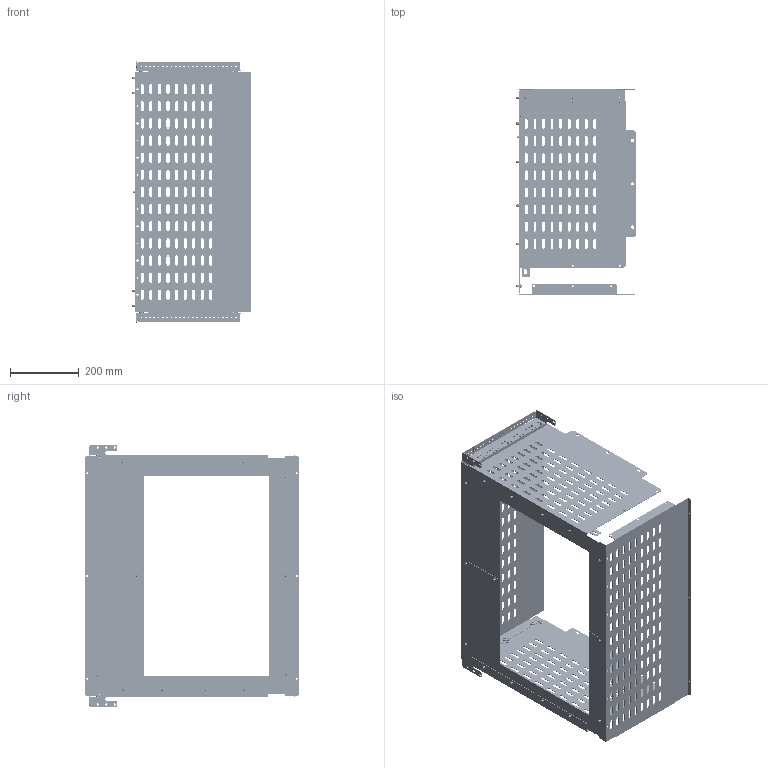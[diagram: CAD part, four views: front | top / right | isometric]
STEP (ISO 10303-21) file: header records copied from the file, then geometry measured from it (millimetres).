
FILE_DESCRIPTION (( 'STEP AP214' ), '1' );
FILE_NAME ('FO-00-3AGW-060-080 Êîìïëåêò ñåêöèîíèðîâàíèÿ 2a-3a äëÿ ARMAT ACB òèïîðàçìåð G âûêàòíîãî èñïîëíåíèÿ 3P 600õ800.STEP', '2025-08-21T07:41:21', ( '' ), ( '' ), 'SwSTEP 2.0', 'SolidWorks 2023', '' );
FILE_SCHEMA (( 'AUTOMOTIVE_DESIGN' ));
Length unit declared in the file: millimetre
Products named in the file (1): FO-00-3AGW-060-080 Комплект секционирования 2a-3a для ARMAT ACB типоразмер G выкатного исполнения 3P 600х800
Bounding box: 349 x 622 x 766 mm (x, y, z)
Volume: 1663268.8 mm3; surface area: 2102817.1 mm2
Topology: 1 solids, 17 shells, 3348 faces, 9588 edges, 6326 vertices
Faces by surface type: cylinder 1915, plane 1271, sphere 54, cone 54, torus 54
Entity records: 114030 total; most frequent: CARTESIAN_POINT 21639, DIRECTION 19469, ORIENTED_EDGE 19176, EDGE_CURVE 9588, AXIS2_PLACEMENT_3D 7028, VERTEX_POINT 6326, LINE 5413, VECTOR 5413
